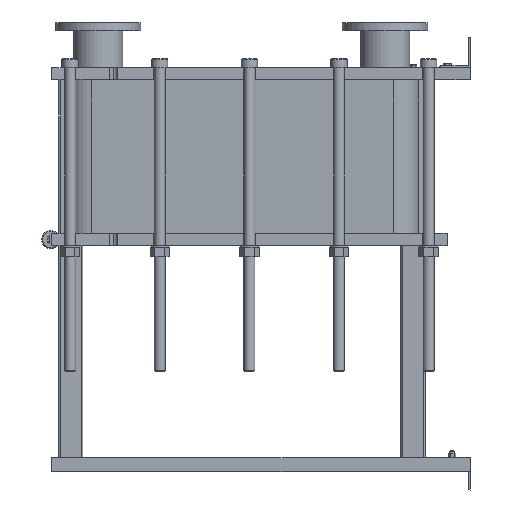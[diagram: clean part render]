
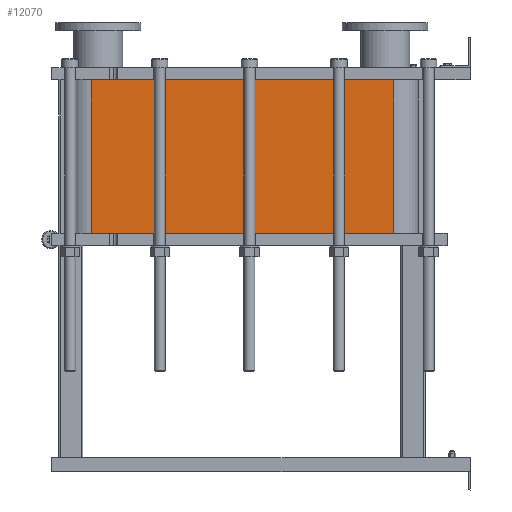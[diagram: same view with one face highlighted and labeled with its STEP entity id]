
A CAD part, left-side view. The second image highlights one B-rep face of the part: STEP entity #12070.
In plain terms, the highlighted planar face has unit normal (-1, 0, 0).
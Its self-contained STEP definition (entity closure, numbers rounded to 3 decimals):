
#1064=LINE('',#21140,#2164);
#1065=LINE('',#21144,#2165);
#1066=LINE('',#21146,#2166);
#1067=LINE('',#21147,#2167);
#2164=VECTOR('',#15790,10.);
#2165=VECTOR('',#15795,10.);
#2166=VECTOR('',#15796,10.);
#2167=VECTOR('',#15797,10.);
#3304=FACE_OUTER_BOUND('',#4091,.T.);
#4091=EDGE_LOOP('',(#9793,#9794,#9795,#9796));
#5677=VERTEX_POINT('',#21137);
#5678=VERTEX_POINT('',#21139);
#5679=VERTEX_POINT('',#21143);
#5680=VERTEX_POINT('',#21145);
#7118=EDGE_CURVE('',#5678,#5677,#1064,.T.);
#7120=EDGE_CURVE('',#5677,#5679,#1065,.T.);
#7121=EDGE_CURVE('',#5680,#5679,#1066,.T.);
#7122=EDGE_CURVE('',#5680,#5678,#1067,.T.);
#9793=ORIENTED_EDGE('',*,*,#7120,.T.);
#9794=ORIENTED_EDGE('',*,*,#7121,.F.);
#9795=ORIENTED_EDGE('',*,*,#7122,.T.);
#9796=ORIENTED_EDGE('',*,*,#7118,.T.);
#11441=PLANE('',#13191);
#12070=ADVANCED_FACE('',(#3304),#11441,.T.);
#13191=AXIS2_PLACEMENT_3D('',#21142,#15793,#15794);
#15790=DIRECTION('',(0.,0.,-1.));
#15793=DIRECTION('center_axis',(-1.,0.,0.));
#15794=DIRECTION('ref_axis',(0.,1.,0.));
#15795=DIRECTION('',(0.,-1.,0.));
#15796=DIRECTION('',(0.,0.,-1.));
#15797=DIRECTION('',(0.,1.,0.));
#21137=CARTESIAN_POINT('',(-248.152,1243.818,-503.7));
#21139=CARTESIAN_POINT('',(-248.152,1243.818,0.));
#21140=CARTESIAN_POINT('',(-248.152,1243.818,0.));
#21142=CARTESIAN_POINT('Origin',(-248.152,251.818,0.));
#21143=CARTESIAN_POINT('',(-248.152,251.818,-503.7));
#21144=CARTESIAN_POINT('',(-248.152,499.818,-503.7));
#21145=CARTESIAN_POINT('',(-248.152,251.818,0.));
#21146=CARTESIAN_POINT('',(-248.152,251.818,0.));
#21147=CARTESIAN_POINT('',(-248.152,251.818,0.));
